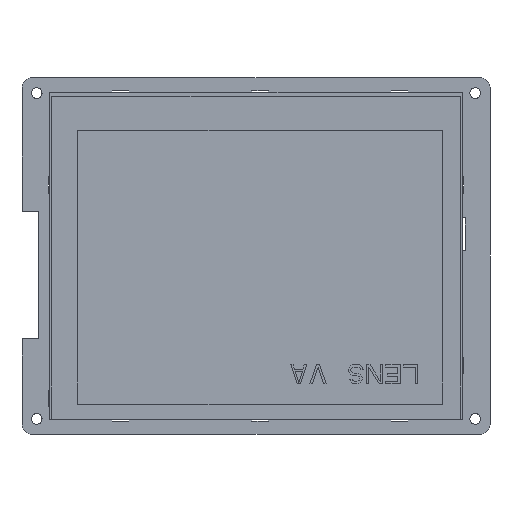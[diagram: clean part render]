
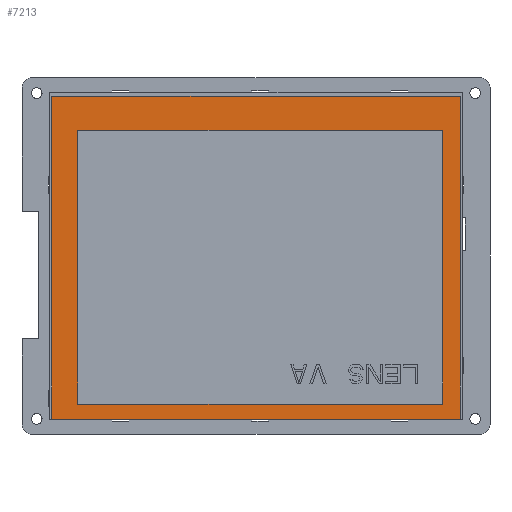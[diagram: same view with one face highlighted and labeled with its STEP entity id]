
A CAD part, front view. The second image highlights one B-rep face of the part: STEP entity #7213.
In plain terms, the highlighted planar face has unit normal (0, -1, 0) as drawn and (0, 1, 0) by its records, which use the part's own axes.
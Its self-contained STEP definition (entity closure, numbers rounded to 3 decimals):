
#5424=DIRECTION('',(0.,0.,1.));
#5425=VECTOR('',#5424,99.9);
#5426=CARTESIAN_POINT('',(-63.2,1.63,-49.95));
#5427=LINE('',#5426,#5425);
#5428=DIRECTION('',(-1.,0.,0.));
#5429=VECTOR('',#5428,126.4);
#5430=CARTESIAN_POINT('',(63.2,1.63,-49.95));
#5431=LINE('',#5430,#5429);
#5432=DIRECTION('',(0.,0.,-1.));
#5433=VECTOR('',#5432,99.9);
#5434=CARTESIAN_POINT('',(63.2,1.63,49.95));
#5435=LINE('',#5434,#5433);
#5436=DIRECTION('',(1.,0.,0.));
#5437=VECTOR('',#5436,126.4);
#5438=CARTESIAN_POINT('',(-63.2,1.63,49.95));
#5439=LINE('',#5438,#5437);
#5440=DIRECTION('',(0.,0.,1.));
#5441=VECTOR('',#5440,84.7);
#5442=CARTESIAN_POINT('',(-55.2,1.63,-39.4));
#5443=LINE('',#5442,#5441);
#5444=DIRECTION('',(1.,0.,0.));
#5445=VECTOR('',#5444,112.9);
#5446=CARTESIAN_POINT('',(-55.2,1.63,45.3));
#5447=LINE('',#5446,#5445);
#5448=DIRECTION('',(0.,0.,-1.));
#5449=VECTOR('',#5448,84.7);
#5450=CARTESIAN_POINT('',(57.7,1.63,45.3));
#5451=LINE('',#5450,#5449);
#5452=DIRECTION('',(-1.,0.,0.));
#5453=VECTOR('',#5452,112.9);
#5454=CARTESIAN_POINT('',(57.7,1.63,-39.4));
#5455=LINE('',#5454,#5453);
#6696=CARTESIAN_POINT('',(-63.2,1.63,-49.95));
#6697=CARTESIAN_POINT('',(-63.2,1.63,49.95));
#6698=VERTEX_POINT('',#6696);
#6699=VERTEX_POINT('',#6697);
#6700=CARTESIAN_POINT('',(63.2,1.63,49.95));
#6701=VERTEX_POINT('',#6700);
#6702=CARTESIAN_POINT('',(63.2,1.63,-49.95));
#6703=VERTEX_POINT('',#6702);
#6712=CARTESIAN_POINT('',(-55.2,1.63,-39.4));
#6713=CARTESIAN_POINT('',(-55.2,1.63,45.3));
#6714=VERTEX_POINT('',#6712);
#6715=VERTEX_POINT('',#6713);
#6716=CARTESIAN_POINT('',(57.7,1.63,45.3));
#6717=VERTEX_POINT('',#6716);
#6718=CARTESIAN_POINT('',(57.7,1.63,-39.4));
#6719=VERTEX_POINT('',#6718);
#7192=CARTESIAN_POINT('',(0.,1.63,0.));
#7193=DIRECTION('',(0.,1.,0.));
#7194=DIRECTION('',(1.,0.,0.));
#7195=AXIS2_PLACEMENT_3D('',#7192,#7193,#7194);
#7196=PLANE('',#7195);
#7197=ORIENTED_EDGE('',*,*,#7144,.F.);
#7198=ORIENTED_EDGE('',*,*,#7159,.F.);
#7199=ORIENTED_EDGE('',*,*,#7173,.F.);
#7200=ORIENTED_EDGE('',*,*,#7186,.F.);
#7201=EDGE_LOOP('',(#7197,#7198,#7199,#7200));
#7202=FACE_OUTER_BOUND('',#7201,.F.);
#7204=ORIENTED_EDGE('',*,*,#7203,.T.);
#7206=ORIENTED_EDGE('',*,*,#7205,.T.);
#7208=ORIENTED_EDGE('',*,*,#7207,.T.);
#7210=ORIENTED_EDGE('',*,*,#7209,.T.);
#7211=EDGE_LOOP('',(#7204,#7206,#7208,#7210));
#7212=FACE_BOUND('',#7211,.F.);
#7144=EDGE_CURVE('',#6698,#6699,#5427,.T.);
#7159=EDGE_CURVE('',#6703,#6698,#5431,.T.);
#7173=EDGE_CURVE('',#6701,#6703,#5435,.T.);
#7186=EDGE_CURVE('',#6699,#6701,#5439,.T.);
#7203=EDGE_CURVE('',#6714,#6715,#5443,.T.);
#7205=EDGE_CURVE('',#6715,#6717,#5447,.T.);
#7207=EDGE_CURVE('',#6717,#6719,#5451,.T.);
#7209=EDGE_CURVE('',#6719,#6714,#5455,.T.);
#7213=ADVANCED_FACE('',(#7202,#7212),#7196,.T.);
